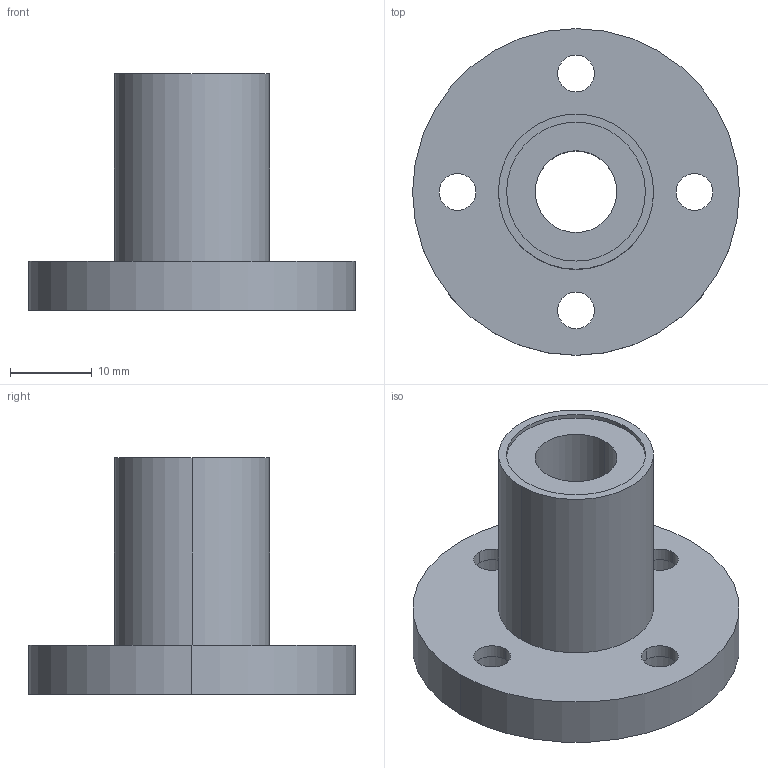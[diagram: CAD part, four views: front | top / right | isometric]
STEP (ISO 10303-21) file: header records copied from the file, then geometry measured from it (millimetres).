
FILE_DESCRIPTION((''),'2;1');
FILE_NAME('C:\Documents and Settings\ｿﾀﾀ蠑ｷ1\ｹﾙﾅﾁ ﾈｭｸ饅\ｺﾎﾇｰﾆﾄﾀﾏ\ﾁｦﾇｰ\LMF__UU\LMF10UU.stp','2005-06-15T09:36:15',('ｿﾀﾀ蠑ｷ1'),(''),'Autodesk Inventor 9','Autodesk Inventor 9','');
FILE_SCHEMA(('AUTOMOTIVE_DESIGN { 1 0 10303 214 1 1 1 1 }'));
Length unit declared in the file: millimetre
Products named in the file (1): LMF__
Bounding box: 40 x 40 x 29 mm (x, y, z)
Volume: 10616.6 mm3; surface area: 5825.8 mm2
Topology: 1 solids, 1 shells, 38 faces, 84 edges, 56 vertices
Faces by surface type: cylinder 28, plane 10
Entity records: 1127 total; most frequent: DIRECTION 218, CARTESIAN_POINT 179, ORIENTED_EDGE 168, AXIS2_PLACEMENT_3D 95, EDGE_CURVE 84, VERTEX_POINT 56, CIRCLE 56, EDGE_LOOP 56
